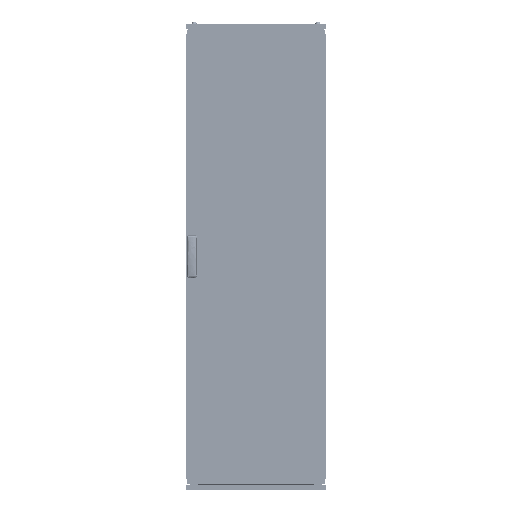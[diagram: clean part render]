
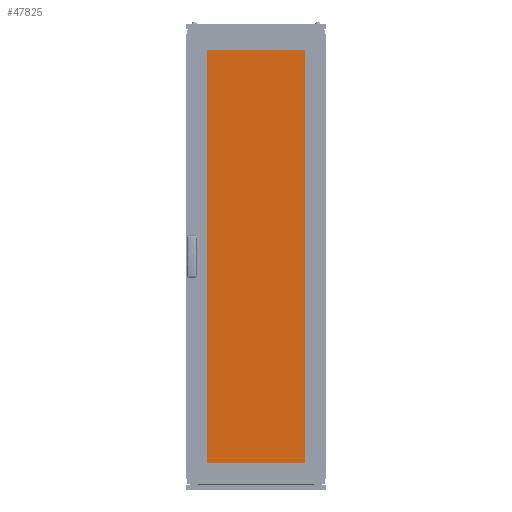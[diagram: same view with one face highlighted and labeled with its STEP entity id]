
A CAD part, top view. The second image highlights one B-rep face of the part: STEP entity #47825.
In plain terms, the highlighted planar face has unit normal (0, 0, 1).
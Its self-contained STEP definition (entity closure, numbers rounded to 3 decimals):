
#6542 = VERTEX_POINT ( 'NONE', #167352 ) ;
#7925 = EDGE_CURVE ( 'NONE', #115581, #179375, #206571, .T. ) ;
#14259 = CARTESIAN_POINT ( 'NONE',  ( -230., -910., 5. ) ) ;
#25597 = EDGE_CURVE ( 'NONE', #185907, #115581, #165329, .T. ) ;
#26526 = VECTOR ( 'NONE', #161966, 1000. ) ;
#27692 = DIRECTION ( 'NONE',  ( -1., 0., 0. ) ) ;
#30089 = AXIS2_PLACEMENT_3D ( 'NONE', #144442, #109827, #27692 ) ;
#34687 = EDGE_CURVE ( 'NONE', #179375, #6542, #170721, .T. ) ;
#41944 = CARTESIAN_POINT ( 'NONE',  ( -230., -910., 5. ) ) ;
#47691 = ORIENTED_EDGE ( 'NONE', *, *, #7925, .T. ) ;
#47825 = ADVANCED_FACE ( 'NONE', ( #206260 ), #176866, .F. ) ;
#59982 = ORIENTED_EDGE ( 'NONE', *, *, #25597, .T. ) ;
#75293 = VECTOR ( 'NONE', #178007, 1000. ) ;
#79074 = ORIENTED_EDGE ( 'NONE', *, *, #34687, .T. ) ;
#100429 = VECTOR ( 'NONE', #107868, 1000. ) ;
#102955 = EDGE_LOOP ( 'NONE', ( #104860, #59982, #47691, #79074 ) ) ;
#104860 = ORIENTED_EDGE ( 'NONE', *, *, #174425, .T. ) ;
#107564 = CARTESIAN_POINT ( 'NONE',  ( 230., 910., 5. ) ) ;
#107868 = DIRECTION ( 'NONE',  ( 1., 0., 0. ) ) ;
#108973 = LINE ( 'NONE', #158785, #26526 ) ;
#109827 = DIRECTION ( 'NONE',  ( 0., 0., -1. ) ) ;
#115581 = VERTEX_POINT ( 'NONE', #129305 ) ;
#129305 = CARTESIAN_POINT ( 'NONE',  ( -230., 910., 5. ) ) ;
#144442 = CARTESIAN_POINT ( 'NONE',  ( 0., 0., 5. ) ) ;
#158785 = CARTESIAN_POINT ( 'NONE',  ( 230., -910., 5. ) ) ;
#161966 = DIRECTION ( 'NONE',  ( 0., 1., 0. ) ) ;
#165329 = LINE ( 'NONE', #181521, #166736 ) ;
#166736 = VECTOR ( 'NONE', #197788, 1000. ) ;
#167352 = CARTESIAN_POINT ( 'NONE',  ( 230., -910., 5. ) ) ;
#170721 = LINE ( 'NONE', #41944, #100429 ) ;
#174425 = EDGE_CURVE ( 'NONE', #6542, #185907, #108973, .T. ) ;
#176866 = PLANE ( 'NONE',  #30089 ) ;
#178007 = DIRECTION ( 'NONE',  ( 0., -1., 0. ) ) ;
#179375 = VERTEX_POINT ( 'NONE', #14259 ) ;
#181521 = CARTESIAN_POINT ( 'NONE',  ( -230., 910., 5. ) ) ;
#185907 = VERTEX_POINT ( 'NONE', #107564 ) ;
#197788 = DIRECTION ( 'NONE',  ( -1., 0., 0. ) ) ;
#206260 = FACE_OUTER_BOUND ( 'NONE', #102955, .T. ) ;
#206571 = LINE ( 'NONE', #207593, #75293 ) ;
#207593 = CARTESIAN_POINT ( 'NONE',  ( -230., -910., 5. ) ) ;
